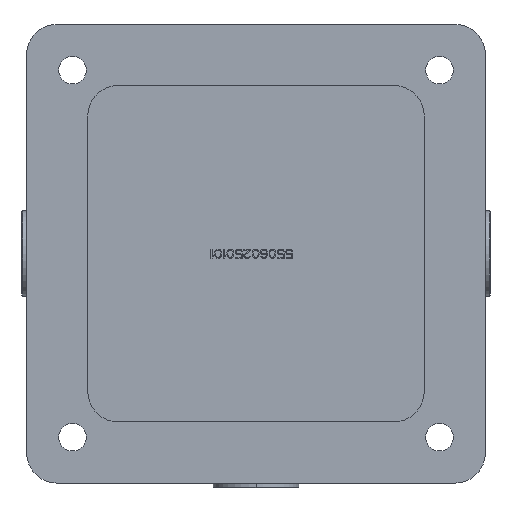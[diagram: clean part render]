
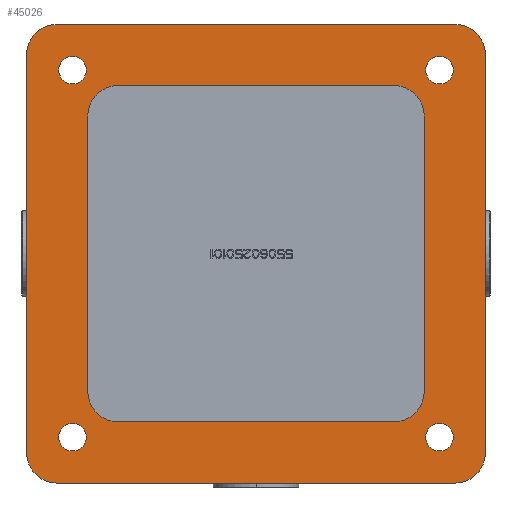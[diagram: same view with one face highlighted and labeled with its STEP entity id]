
A CAD part, front view. The second image highlights one B-rep face of the part: STEP entity #45026.
In plain terms, the highlighted planar face has unit normal (0, -1, 0).
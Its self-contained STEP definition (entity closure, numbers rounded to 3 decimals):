
#35107=DIRECTION('',(0.,0.,-1.));
#35108=VECTOR('',#35107,130.);
#35109=CARTESIAN_POINT('',(75.,0.,65.));
#35110=LINE('',#35109,#35108);
#35111=DIRECTION('',(-1.,0.,0.));
#35112=VECTOR('',#35111,130.);
#35113=CARTESIAN_POINT('',(65.,0.,-75.));
#35114=LINE('',#35113,#35112);
#35115=DIRECTION('',(0.,0.,1.));
#35116=VECTOR('',#35115,130.);
#35117=CARTESIAN_POINT('',(-75.,0.,-65.));
#35118=LINE('',#35117,#35116);
#35119=DIRECTION('',(1.,0.,0.));
#35120=VECTOR('',#35119,130.);
#35121=CARTESIAN_POINT('',(-65.,0.,75.));
#35122=LINE('',#35121,#35120);
#35123=DIRECTION('',(-1.,0.,0.));
#35124=VECTOR('',#35123,90.);
#35125=CARTESIAN_POINT('',(45.,0.,55.));
#35126=LINE('',#35125,#35124);
#35127=DIRECTION('',(0.,0.,-1.));
#35128=VECTOR('',#35127,90.);
#35129=CARTESIAN_POINT('',(-55.,0.,45.));
#35130=LINE('',#35129,#35128);
#35131=DIRECTION('',(1.,0.,0.));
#35132=VECTOR('',#35131,90.);
#35133=CARTESIAN_POINT('',(-45.,0.,-55.));
#35134=LINE('',#35133,#35132);
#35135=DIRECTION('',(0.,0.,1.));
#35136=VECTOR('',#35135,90.);
#35137=CARTESIAN_POINT('',(55.,0.,-45.));
#35138=LINE('',#35137,#35136);
#35139=CARTESIAN_POINT('',(-60.,0.,-60.));
#35140=DIRECTION('',(0.,1.,0.));
#35141=DIRECTION('',(0.,0.,-1.));
#35142=AXIS2_PLACEMENT_3D('',#35139,#35140,#35141);
#35144=CARTESIAN_POINT('',(-60.,0.,-60.));
#35145=DIRECTION('',(0.,1.,0.));
#35146=DIRECTION('',(0.,0.,1.));
#35147=AXIS2_PLACEMENT_3D('',#35144,#35145,#35146);
#35149=CARTESIAN_POINT('',(-60.,0.,60.));
#35150=DIRECTION('',(0.,1.,0.));
#35151=DIRECTION('',(0.,0.,-1.));
#35152=AXIS2_PLACEMENT_3D('',#35149,#35150,#35151);
#35154=CARTESIAN_POINT('',(-60.,0.,60.));
#35155=DIRECTION('',(0.,1.,0.));
#35156=DIRECTION('',(0.,0.,1.));
#35157=AXIS2_PLACEMENT_3D('',#35154,#35155,#35156);
#35159=CARTESIAN_POINT('',(60.,0.,60.));
#35160=DIRECTION('',(0.,1.,0.));
#35161=DIRECTION('',(0.,0.,-1.));
#35162=AXIS2_PLACEMENT_3D('',#35159,#35160,#35161);
#35164=CARTESIAN_POINT('',(60.,0.,60.));
#35165=DIRECTION('',(0.,1.,0.));
#35166=DIRECTION('',(0.,0.,1.));
#35167=AXIS2_PLACEMENT_3D('',#35164,#35165,#35166);
#35169=CARTESIAN_POINT('',(60.,0.,-60.));
#35170=DIRECTION('',(0.,1.,0.));
#35171=DIRECTION('',(0.,0.,-1.));
#35172=AXIS2_PLACEMENT_3D('',#35169,#35170,#35171);
#35174=CARTESIAN_POINT('',(60.,0.,-60.));
#35175=DIRECTION('',(0.,1.,0.));
#35176=DIRECTION('',(0.,0.,1.));
#35177=AXIS2_PLACEMENT_3D('',#35174,#35175,#35176);
#35192=CARTESIAN_POINT('',(65.,0.,65.));
#35193=DIRECTION('',(0.,-1.,0.));
#35194=DIRECTION('',(1.,0.,0.));
#35195=AXIS2_PLACEMENT_3D('',#35192,#35193,#35194);
#35210=CARTESIAN_POINT('',(-65.,0.,65.));
#35211=DIRECTION('',(0.,-1.,0.));
#35212=DIRECTION('',(0.,0.,1.));
#35213=AXIS2_PLACEMENT_3D('',#35210,#35211,#35212);
#35228=CARTESIAN_POINT('',(-65.,0.,-65.));
#35229=DIRECTION('',(0.,-1.,0.));
#35230=DIRECTION('',(-1.,0.,0.));
#35231=AXIS2_PLACEMENT_3D('',#35228,#35229,#35230);
#35246=CARTESIAN_POINT('',(65.,0.,-65.));
#35247=DIRECTION('',(0.,-1.,0.));
#35248=DIRECTION('',(0.,0.,-1.));
#35249=AXIS2_PLACEMENT_3D('',#35246,#35247,#35248);
#37841=CARTESIAN_POINT('',(45.,0.,45.));
#37842=DIRECTION('',(0.,1.,0.));
#37843=DIRECTION('',(0.,0.,1.));
#37844=AXIS2_PLACEMENT_3D('',#37841,#37842,#37843);
#37859=CARTESIAN_POINT('',(45.,0.,-45.));
#37860=DIRECTION('',(0.,1.,0.));
#37861=DIRECTION('',(1.,0.,0.));
#37862=AXIS2_PLACEMENT_3D('',#37859,#37860,#37861);
#37877=CARTESIAN_POINT('',(-45.,0.,-45.));
#37878=DIRECTION('',(0.,1.,0.));
#37879=DIRECTION('',(0.,0.,-1.));
#37880=AXIS2_PLACEMENT_3D('',#37877,#37878,#37879);
#37895=CARTESIAN_POINT('',(-45.,0.,45.));
#37896=DIRECTION('',(0.,1.,0.));
#37897=DIRECTION('',(-1.,0.,0.));
#37898=AXIS2_PLACEMENT_3D('',#37895,#37896,#37897);
#42722=CARTESIAN_POINT('',(65.,0.,75.));
#42724=VERTEX_POINT('',#42722);
#42727=CARTESIAN_POINT('',(75.,0.,65.));
#42728=VERTEX_POINT('',#42727);
#42730=CARTESIAN_POINT('',(75.,0.,-65.));
#42732=VERTEX_POINT('',#42730);
#42735=CARTESIAN_POINT('',(65.,0.,-75.));
#42736=VERTEX_POINT('',#42735);
#42738=CARTESIAN_POINT('',(-75.,0.,65.));
#42740=VERTEX_POINT('',#42738);
#42743=CARTESIAN_POINT('',(-65.,0.,75.));
#42744=VERTEX_POINT('',#42743);
#42746=CARTESIAN_POINT('',(-65.,0.,-75.));
#42748=VERTEX_POINT('',#42746);
#42751=CARTESIAN_POINT('',(-75.,0.,-65.));
#42752=VERTEX_POINT('',#42751);
#42753=CARTESIAN_POINT('',(45.,0.,55.));
#42755=VERTEX_POINT('',#42753);
#42757=CARTESIAN_POINT('',(55.,0.,45.));
#42759=VERTEX_POINT('',#42757);
#42761=CARTESIAN_POINT('',(-55.,0.,45.));
#42763=VERTEX_POINT('',#42761);
#42765=CARTESIAN_POINT('',(-45.,0.,55.));
#42767=VERTEX_POINT('',#42765);
#42769=CARTESIAN_POINT('',(-45.,0.,-55.));
#42771=VERTEX_POINT('',#42769);
#42773=CARTESIAN_POINT('',(-55.,0.,-45.));
#42775=VERTEX_POINT('',#42773);
#42777=CARTESIAN_POINT('',(55.,0.,-45.));
#42779=VERTEX_POINT('',#42777);
#42781=CARTESIAN_POINT('',(45.,0.,-55.));
#42783=VERTEX_POINT('',#42781);
#42845=CARTESIAN_POINT('',(-60.,0.,-64.5));
#42846=CARTESIAN_POINT('',(-60.,0.,-55.5));
#42847=VERTEX_POINT('',#42845);
#42848=VERTEX_POINT('',#42846);
#42849=CARTESIAN_POINT('',(-60.,0.,55.5));
#42850=CARTESIAN_POINT('',(-60.,0.,64.5));
#42851=VERTEX_POINT('',#42849);
#42852=VERTEX_POINT('',#42850);
#42853=CARTESIAN_POINT('',(60.,0.,55.5));
#42854=CARTESIAN_POINT('',(60.,0.,64.5));
#42855=VERTEX_POINT('',#42853);
#42856=VERTEX_POINT('',#42854);
#42857=CARTESIAN_POINT('',(60.,0.,-64.5));
#42858=CARTESIAN_POINT('',(60.,0.,-55.5));
#42859=VERTEX_POINT('',#42857);
#42860=VERTEX_POINT('',#42858);
#44961=CARTESIAN_POINT('',(0.,0.,0.));
#44962=DIRECTION('',(0.,1.,0.));
#44963=DIRECTION('',(1.,0.,0.));
#44964=AXIS2_PLACEMENT_3D('',#44961,#44962,#44963);
#44965=PLANE('',#44964);
#44967=ORIENTED_EDGE('',*,*,#44966,.F.);
#44969=ORIENTED_EDGE('',*,*,#44968,.T.);
#44971=ORIENTED_EDGE('',*,*,#44970,.F.);
#44973=ORIENTED_EDGE('',*,*,#44972,.T.);
#44975=ORIENTED_EDGE('',*,*,#44974,.F.);
#44977=ORIENTED_EDGE('',*,*,#44976,.T.);
#44979=ORIENTED_EDGE('',*,*,#44978,.F.);
#44981=ORIENTED_EDGE('',*,*,#44980,.T.);
#44982=EDGE_LOOP('',(#44967,#44969,#44971,#44973,#44975,#44977,#44979,#44981));
#44983=FACE_OUTER_BOUND('',#44982,.F.);
#44985=ORIENTED_EDGE('',*,*,#44984,.T.);
#44987=ORIENTED_EDGE('',*,*,#44986,.F.);
#44989=ORIENTED_EDGE('',*,*,#44988,.T.);
#44991=ORIENTED_EDGE('',*,*,#44990,.F.);
#44993=ORIENTED_EDGE('',*,*,#44992,.T.);
#44995=ORIENTED_EDGE('',*,*,#44994,.F.);
#44997=ORIENTED_EDGE('',*,*,#44996,.T.);
#44999=ORIENTED_EDGE('',*,*,#44998,.F.);
#45000=EDGE_LOOP('',(#44985,#44987,#44989,#44991,#44993,#44995,#44997,#44999));
#45001=FACE_BOUND('',#45000,.F.);
#45003=ORIENTED_EDGE('',*,*,#45002,.F.);
#45005=ORIENTED_EDGE('',*,*,#45004,.F.);
#45006=EDGE_LOOP('',(#45003,#45005));
#45007=FACE_BOUND('',#45006,.F.);
#45009=ORIENTED_EDGE('',*,*,#45008,.F.);
#45011=ORIENTED_EDGE('',*,*,#45010,.F.);
#45012=EDGE_LOOP('',(#45009,#45011));
#45013=FACE_BOUND('',#45012,.F.);
#45015=ORIENTED_EDGE('',*,*,#45014,.F.);
#45017=ORIENTED_EDGE('',*,*,#45016,.F.);
#45018=EDGE_LOOP('',(#45015,#45017));
#45019=FACE_BOUND('',#45018,.F.);
#45021=ORIENTED_EDGE('',*,*,#45020,.F.);
#45023=ORIENTED_EDGE('',*,*,#45022,.F.);
#45024=EDGE_LOOP('',(#45021,#45023));
#45025=FACE_BOUND('',#45024,.F.);
#45026=ADVANCED_FACE('',(#44983,#45001,#45007,#45013,#45019,#45025),#44965,.F.);
#35143=CIRCLE('',#35142,4.5);
#35148=CIRCLE('',#35147,4.5);
#35153=CIRCLE('',#35152,4.5);
#35158=CIRCLE('',#35157,4.5);
#35163=CIRCLE('',#35162,4.5);
#35168=CIRCLE('',#35167,4.5);
#35173=CIRCLE('',#35172,4.5);
#35178=CIRCLE('',#35177,4.5);
#35196=CIRCLE('',#35195,10.);
#35214=CIRCLE('',#35213,10.);
#35232=CIRCLE('',#35231,10.);
#35250=CIRCLE('',#35249,10.);
#37845=CIRCLE('',#37844,10.);
#37863=CIRCLE('',#37862,10.);
#37881=CIRCLE('',#37880,10.);
#37899=CIRCLE('',#37898,10.);
#44966=EDGE_CURVE('',#42728,#42724,#35196,.T.);
#44968=EDGE_CURVE('',#42728,#42732,#35110,.T.);
#44970=EDGE_CURVE('',#42736,#42732,#35250,.T.);
#44972=EDGE_CURVE('',#42736,#42748,#35114,.T.);
#44974=EDGE_CURVE('',#42752,#42748,#35232,.T.);
#44976=EDGE_CURVE('',#42752,#42740,#35118,.T.);
#44978=EDGE_CURVE('',#42744,#42740,#35214,.T.);
#44980=EDGE_CURVE('',#42744,#42724,#35122,.T.);
#44984=EDGE_CURVE('',#42755,#42767,#35126,.T.);
#44986=EDGE_CURVE('',#42763,#42767,#37899,.T.);
#44988=EDGE_CURVE('',#42763,#42775,#35130,.T.);
#44990=EDGE_CURVE('',#42771,#42775,#37881,.T.);
#44992=EDGE_CURVE('',#42771,#42783,#35134,.T.);
#44994=EDGE_CURVE('',#42779,#42783,#37863,.T.);
#44996=EDGE_CURVE('',#42779,#42759,#35138,.T.);
#44998=EDGE_CURVE('',#42755,#42759,#37845,.T.);
#45002=EDGE_CURVE('',#42847,#42848,#35143,.T.);
#45004=EDGE_CURVE('',#42848,#42847,#35148,.T.);
#45008=EDGE_CURVE('',#42851,#42852,#35153,.T.);
#45010=EDGE_CURVE('',#42852,#42851,#35158,.T.);
#45014=EDGE_CURVE('',#42855,#42856,#35163,.T.);
#45016=EDGE_CURVE('',#42856,#42855,#35168,.T.);
#45020=EDGE_CURVE('',#42859,#42860,#35173,.T.);
#45022=EDGE_CURVE('',#42860,#42859,#35178,.T.);
